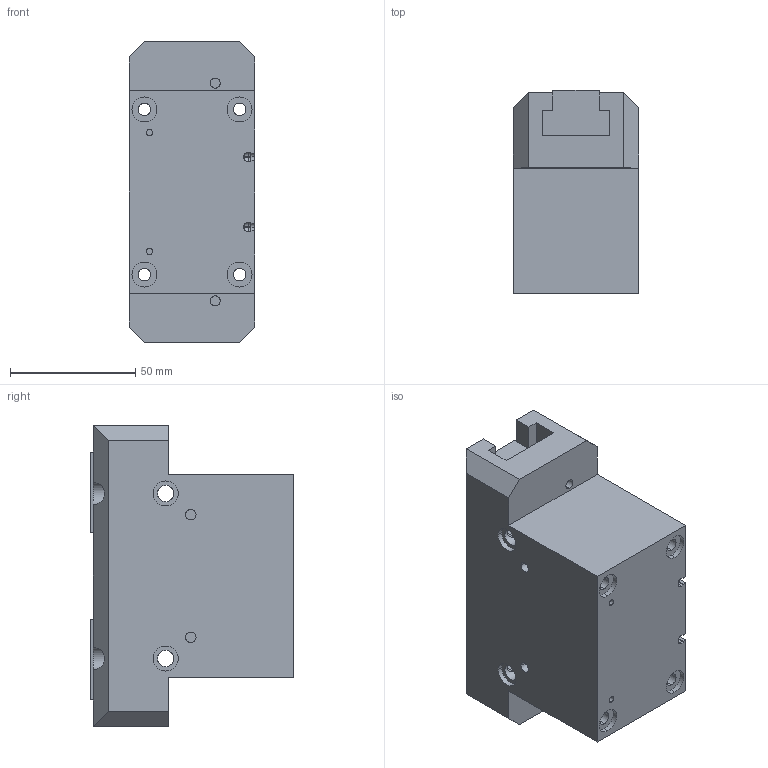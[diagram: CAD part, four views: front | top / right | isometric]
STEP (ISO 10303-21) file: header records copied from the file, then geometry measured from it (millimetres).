
FILE_DESCRIPTION (( 'STEP AP203' ), '1' );
FILE_NAME ('dh4420nc.STEP', '2011-08-03T08:38:07', ( 'Stefano' ), ( 'Gimatic' ), 'SwSTEP 2.0', 'SolidWorks 2010', '' );
FILE_SCHEMA (( 'CONFIG_CONTROL_DESIGN' ));
Length unit declared in the file: millimetre
Products named in the file (3): dh44_corpoprolungato; dh4420nc; dh44_griffa
Assembly tree (3 placements, depth 2):
  dh4420nc
    dh44_griffa  x2
    dh44_corpoprolungato
Bounding box: 50 x 81 x 120 mm (x, y, z)
Volume: 346268.7 mm3; surface area: 60413.2 mm2
Topology: 3 solids, 3 shells, 192 faces, 496 edges, 312 vertices
Faces by surface type: cylinder 90, plane 90, cone 8, sphere 4
Entity records: 5863 total; most frequent: CARTESIAN_POINT 1396, DIRECTION 878, ORIENTED_EDGE 852, EDGE_CURVE 426, AXIS2_PLACEMENT_3D 316, VERTEX_POINT 274, VECTOR 246, LINE 246
